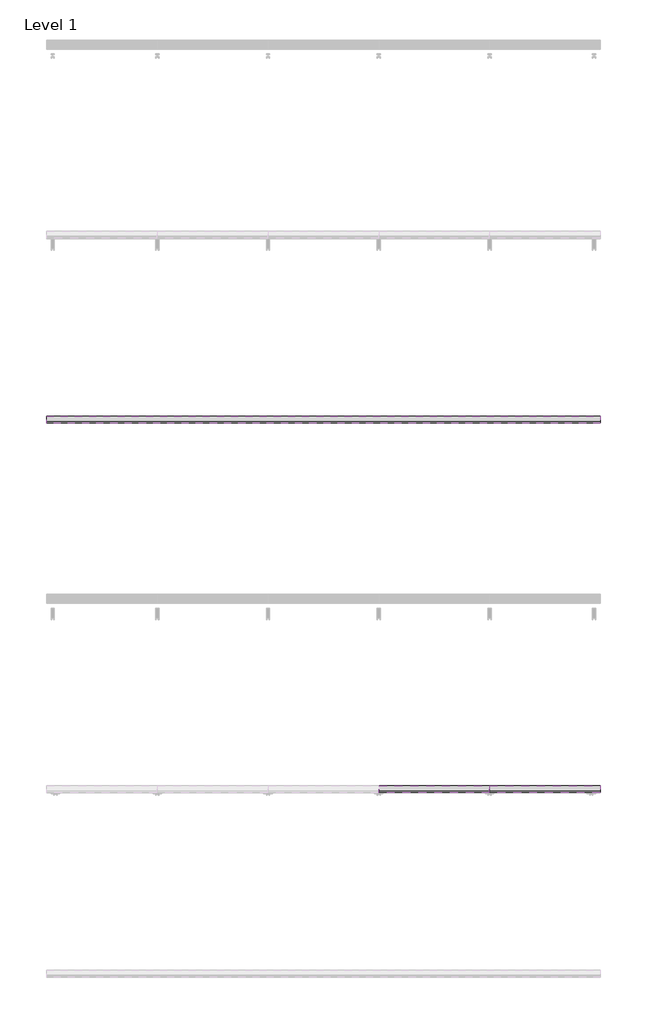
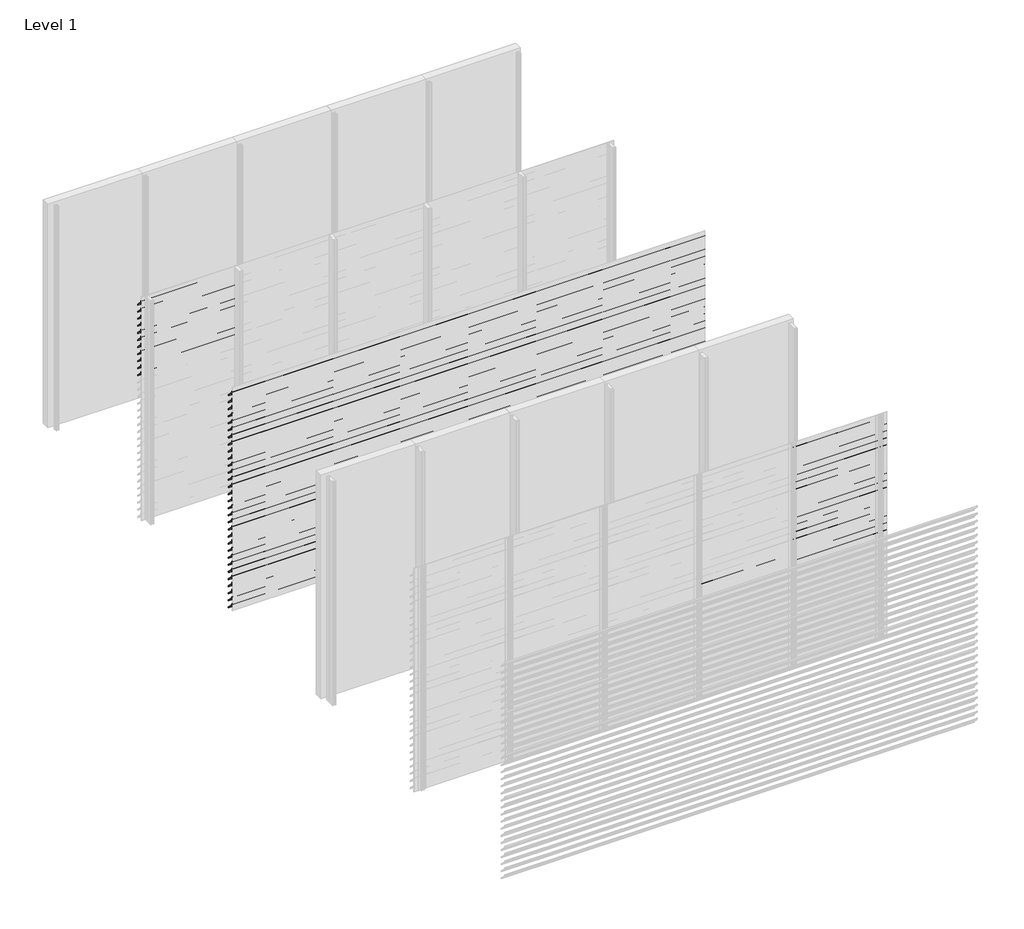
# One storey, part 5 of 24: 89 proxies.
"""IFC4 building model written with IfcOpenShell, lengths in millimetres."""

from ifc_helpers import new_model, si_unit, frame, origin, place, context, project, spatial, polyline, outline, extrude, element, save

model = new_model("IFC4")

# Units and contexts
model_context = context("Model", 3, world=origin())
ifc_project = project(units=[si_unit("LENGTHUNIT", "METRE", prefix="MILLI")], contexts=[model_context])

# Site, building, storey
site = spatial("IfcSite", under=ifc_project)
building = spatial("IfcBuilding", under=site)
storey = spatial("IfcBuildingStorey", under=building, Name="Level 1", Elevation=0.0)

# Proxies
placement = place(None, origin())
element("IfcBuildingElementProxy", 1, Name="Wall Sweeps", at=placement, inside=storey, context=model_context, shape_type="SweptSolid", body=[
    extrude(outline(polyline([(-47920.8, 2842.9), (-47922.3, 2842.9), (-47922.3, 2855.1762333), (-47998.0, 2930.4561238), (-47998.0, 2945.0), (-47996.5, 2945.0), (-47996.5, 2931.0798905), (-47920.8, 2855.8), (-47920.8, 2842.9)])), frame((0.0, 0.0, 0.0), z_axis=(1.0, 0.0, 0.0), x_axis=(0.0, 1.0, 0.0)), (0.0, 0.0, 1.0), 1200.0),
])
element("IfcBuildingElementProxy", 2, Name="Wall Sweeps", at=placement, inside=storey, context=model_context, shape_type="SweptSolid", body=[
    extrude(outline(polyline([(-47920.8, 2747.9), (-47922.3, 2747.9), (-47922.3, 2760.1762333), (-47998.0, 2835.4561238), (-47998.0, 2850.0), (-47996.5, 2850.0), (-47996.5, 2836.0798905), (-47920.8, 2760.8), (-47920.8, 2747.9)])), frame((0.0, 0.0, 0.0), z_axis=(1.0, 0.0, 0.0), x_axis=(0.0, 1.0, 0.0)), (0.0, 0.0, 1.0), 1200.0),
])
element("IfcBuildingElementProxy", 3, Name="Wall Sweeps", at=placement, inside=storey, context=model_context, shape_type="SweptSolid", body=[
    extrude(outline(polyline([(-47920.8, 2652.9), (-47922.3, 2652.9), (-47922.3, 2665.1762333), (-47998.0, 2740.4561238), (-47998.0, 2755.0), (-47996.5, 2755.0), (-47996.5, 2741.0798905), (-47920.8, 2665.8), (-47920.8, 2652.9)])), frame((0.0, 0.0, 0.0), z_axis=(1.0, 0.0, 0.0), x_axis=(0.0, 1.0, 0.0)), (0.0, 0.0, 1.0), 1200.0),
])
element("IfcBuildingElementProxy", 4, Name="Wall Sweeps", at=placement, inside=storey, context=model_context, shape_type="SweptSolid", body=[
    extrude(outline(polyline([(-47920.8, 2557.9), (-47922.3, 2557.9), (-47922.3, 2570.1762333), (-47998.0, 2645.4561238), (-47998.0, 2660.0), (-47996.5, 2660.0), (-47996.5, 2646.0798905), (-47920.8, 2570.8), (-47920.8, 2557.9)])), frame((0.0, 0.0, 0.0), z_axis=(1.0, 0.0, 0.0), x_axis=(0.0, 1.0, 0.0)), (0.0, 0.0, 1.0), 1200.0),
])
element("IfcBuildingElementProxy", 5, Name="Wall Sweeps", at=placement, inside=storey, context=model_context, shape_type="SweptSolid", body=[
    extrude(outline(polyline([(-47920.8, 2462.9), (-47922.3, 2462.9), (-47922.3, 2475.1762333), (-47998.0, 2550.4561238), (-47998.0, 2565.0), (-47996.5, 2565.0), (-47996.5, 2551.0798905), (-47920.8, 2475.8), (-47920.8, 2462.9)])), frame((0.0, 0.0, 0.0), z_axis=(1.0, 0.0, 0.0), x_axis=(0.0, 1.0, 0.0)), (0.0, 0.0, 1.0), 1200.0),
])
element("IfcBuildingElementProxy", 6, Name="Wall Sweeps", at=placement, inside=storey, context=model_context, shape_type="SweptSolid", body=[
    extrude(outline(polyline([(-47920.8, 2367.9), (-47922.3, 2367.9), (-47922.3, 2380.1762333), (-47998.0, 2455.4561238), (-47998.0, 2470.0), (-47996.5, 2470.0), (-47996.5, 2456.0798905), (-47920.8, 2380.8), (-47920.8, 2367.9)])), frame((0.0, 0.0, 0.0), z_axis=(1.0, 0.0, 0.0), x_axis=(0.0, 1.0, 0.0)), (0.0, 0.0, 1.0), 1200.0),
])
element("IfcBuildingElementProxy", 7, Name="Wall Sweeps", at=placement, inside=storey, context=model_context, shape_type="SweptSolid", body=[
    extrude(outline(polyline([(-47920.8, 2272.9), (-47922.3, 2272.9), (-47922.3, 2285.1762333), (-47998.0, 2360.4561238), (-47998.0, 2375.0), (-47996.5, 2375.0), (-47996.5, 2361.0798905), (-47920.8, 2285.8), (-47920.8, 2272.9)])), frame((0.0, 0.0, 0.0), z_axis=(1.0, 0.0, 0.0), x_axis=(0.0, 1.0, 0.0)), (0.0, 0.0, 1.0), 1200.0),
])
element("IfcBuildingElementProxy", 8, Name="Wall Sweeps", at=placement, inside=storey, context=model_context, shape_type="SweptSolid", body=[
    extrude(outline(polyline([(-47920.8, 2177.9), (-47922.3, 2177.9), (-47922.3, 2190.1762333), (-47998.0, 2265.4561238), (-47998.0, 2280.0), (-47996.5, 2280.0), (-47996.5, 2266.0798905), (-47920.8, 2190.8), (-47920.8, 2177.9)])), frame((0.0, 0.0, 0.0), z_axis=(1.0, 0.0, 0.0), x_axis=(0.0, 1.0, 0.0)), (0.0, 0.0, 1.0), 1200.0),
])
element("IfcBuildingElementProxy", 9, Name="Wall Sweeps", at=placement, inside=storey, context=model_context, shape_type="SweptSolid", body=[
    extrude(outline(polyline([(-47920.8, 2082.9), (-47922.3, 2082.9), (-47922.3, 2095.1762333), (-47998.0, 2170.4561238), (-47998.0, 2185.0), (-47996.5, 2185.0), (-47996.5, 2171.0798905), (-47920.8, 2095.8), (-47920.8, 2082.9)])), frame((0.0, 0.0, 0.0), z_axis=(1.0, 0.0, 0.0), x_axis=(0.0, 1.0, 0.0)), (0.0, 0.0, 1.0), 1200.0),
])
element("IfcBuildingElementProxy", 10, Name="Wall Sweeps", at=placement, inside=storey, context=model_context, shape_type="SweptSolid", body=[
    extrude(outline(polyline([(-47920.8, 1987.9), (-47922.3, 1987.9), (-47922.3, 2000.1762333), (-47998.0, 2075.4561238), (-47998.0, 2090.0), (-47996.5, 2090.0), (-47996.5, 2076.0798905), (-47920.8, 2000.8), (-47920.8, 1987.9)])), frame((0.0, 0.0, 0.0), z_axis=(1.0, 0.0, 0.0), x_axis=(0.0, 1.0, 0.0)), (0.0, 0.0, 1.0), 1200.0),
])
element("IfcBuildingElementProxy", 11, Name="Wall Sweeps", at=placement, inside=storey, context=model_context, shape_type="SweptSolid", body=[
    extrude(outline(polyline([(-47920.8, 1892.9), (-47922.3, 1892.9), (-47922.3, 1905.1762333), (-47998.0, 1980.4561238), (-47998.0, 1995.0), (-47996.5, 1995.0), (-47996.5, 1981.0798905), (-47920.8, 1905.8), (-47920.8, 1892.9)])), frame((0.0, 0.0, 0.0), z_axis=(1.0, 0.0, 0.0), x_axis=(0.0, 1.0, 0.0)), (0.0, 0.0, 1.0), 1200.0),
])
element("IfcBuildingElementProxy", 12, Name="Wall Sweeps", at=placement, inside=storey, context=model_context, shape_type="SweptSolid", body=[
    extrude(outline(polyline([(-49920.8, 2842.9), (-49922.3, 2842.9), (-49922.3, 2855.1762333), (-49998.0, 2930.4561238), (-49998.0, 2945.0), (-49996.5, 2945.0), (-49996.5, 2931.0798905), (-49920.8, 2855.8), (-49920.8, 2842.9)])), frame((0.0, 0.0, 0.0), z_axis=(1.0, 0.0, 0.0), x_axis=(0.0, 1.0, 0.0)), (0.0, 0.0, 1.0), 6000.0),
])
element("IfcBuildingElementProxy", 13, Name="Wall Sweeps", at=placement, inside=storey, context=model_context, shape_type="SweptSolid", body=[
    extrude(outline(polyline([(-49920.8, 2747.9), (-49922.3, 2747.9), (-49922.3, 2760.1762333), (-49998.0, 2835.4561238), (-49998.0, 2850.0), (-49996.5, 2850.0), (-49996.5, 2836.0798905), (-49920.8, 2760.8), (-49920.8, 2747.9)])), frame((0.0, 0.0, 0.0), z_axis=(1.0, 0.0, 0.0), x_axis=(0.0, 1.0, 0.0)), (0.0, 0.0, 1.0), 6000.0),
])
element("IfcBuildingElementProxy", 14, Name="Wall Sweeps", at=placement, inside=storey, context=model_context, shape_type="SweptSolid", body=[
    extrude(outline(polyline([(-49920.8, 2652.9), (-49922.3, 2652.9), (-49922.3, 2665.1762333), (-49998.0, 2740.4561238), (-49998.0, 2755.0), (-49996.5, 2755.0), (-49996.5, 2741.0798905), (-49920.8, 2665.8), (-49920.8, 2652.9)])), frame((0.0, 0.0, 0.0), z_axis=(1.0, 0.0, 0.0), x_axis=(0.0, 1.0, 0.0)), (0.0, 0.0, 1.0), 6000.0),
])
element("IfcBuildingElementProxy", 15, Name="Wall Sweeps", at=placement, inside=storey, context=model_context, shape_type="SweptSolid", body=[
    extrude(outline(polyline([(-49920.8, 2557.9), (-49922.3, 2557.9), (-49922.3, 2570.1762333), (-49998.0, 2645.4561238), (-49998.0, 2660.0), (-49996.5, 2660.0), (-49996.5, 2646.0798905), (-49920.8, 2570.8), (-49920.8, 2557.9)])), frame((0.0, 0.0, 0.0), z_axis=(1.0, 0.0, 0.0), x_axis=(0.0, 1.0, 0.0)), (0.0, 0.0, 1.0), 6000.0),
])
element("IfcBuildingElementProxy", 16, Name="Wall Sweeps", at=placement, inside=storey, context=model_context, shape_type="SweptSolid", body=[
    extrude(outline(polyline([(-49920.8, 2462.9), (-49922.3, 2462.9), (-49922.3, 2475.1762333), (-49998.0, 2550.4561238), (-49998.0, 2565.0), (-49996.5, 2565.0), (-49996.5, 2551.0798905), (-49920.8, 2475.8), (-49920.8, 2462.9)])), frame((0.0, 0.0, 0.0), z_axis=(1.0, 0.0, 0.0), x_axis=(0.0, 1.0, 0.0)), (0.0, 0.0, 1.0), 6000.0),
])
element("IfcBuildingElementProxy", 17, Name="Wall Sweeps", at=placement, inside=storey, context=model_context, shape_type="SweptSolid", body=[
    extrude(outline(polyline([(-49920.8, 2367.9), (-49922.3, 2367.9), (-49922.3, 2380.1762333), (-49998.0, 2455.4561238), (-49998.0, 2470.0), (-49996.5, 2470.0), (-49996.5, 2456.0798905), (-49920.8, 2380.8), (-49920.8, 2367.9)])), frame((0.0, 0.0, 0.0), z_axis=(1.0, 0.0, 0.0), x_axis=(0.0, 1.0, 0.0)), (0.0, 0.0, 1.0), 6000.0),
])
element("IfcBuildingElementProxy", 18, Name="Wall Sweeps", at=placement, inside=storey, context=model_context, shape_type="SweptSolid", body=[
    extrude(outline(polyline([(-49920.8, 2272.9), (-49922.3, 2272.9), (-49922.3, 2285.1762333), (-49998.0, 2360.4561238), (-49998.0, 2375.0), (-49996.5, 2375.0), (-49996.5, 2361.0798905), (-49920.8, 2285.8), (-49920.8, 2272.9)])), frame((0.0, 0.0, 0.0), z_axis=(1.0, 0.0, 0.0), x_axis=(0.0, 1.0, 0.0)), (0.0, 0.0, 1.0), 6000.0),
])
element("IfcBuildingElementProxy", 19, Name="Wall Sweeps", at=placement, inside=storey, context=model_context, shape_type="SweptSolid", body=[
    extrude(outline(polyline([(-49920.8, 2177.9), (-49922.3, 2177.9), (-49922.3, 2190.1762333), (-49998.0, 2265.4561238), (-49998.0, 2280.0), (-49996.5, 2280.0), (-49996.5, 2266.0798905), (-49920.8, 2190.8), (-49920.8, 2177.9)])), frame((0.0, 0.0, 0.0), z_axis=(1.0, 0.0, 0.0), x_axis=(0.0, 1.0, 0.0)), (0.0, 0.0, 1.0), 6000.0),
])
element("IfcBuildingElementProxy", 20, Name="Wall Sweeps", at=placement, inside=storey, context=model_context, shape_type="SweptSolid", body=[
    extrude(outline(polyline([(-49920.8, 2082.9), (-49922.3, 2082.9), (-49922.3, 2095.1762333), (-49998.0, 2170.4561238), (-49998.0, 2185.0), (-49996.5, 2185.0), (-49996.5, 2171.0798905), (-49920.8, 2095.8), (-49920.8, 2082.9)])), frame((0.0, 0.0, 0.0), z_axis=(1.0, 0.0, 0.0), x_axis=(0.0, 1.0, 0.0)), (0.0, 0.0, 1.0), 6000.0),
])
element("IfcBuildingElementProxy", 21, Name="Wall Sweeps", at=placement, inside=storey, context=model_context, shape_type="SweptSolid", body=[
    extrude(outline(polyline([(-49920.8, 1987.9), (-49922.3, 1987.9), (-49922.3, 2000.1762333), (-49998.0, 2075.4561238), (-49998.0, 2090.0), (-49996.5, 2090.0), (-49996.5, 2076.0798905), (-49920.8, 2000.8), (-49920.8, 1987.9)])), frame((0.0, 0.0, 0.0), z_axis=(1.0, 0.0, 0.0), x_axis=(0.0, 1.0, 0.0)), (0.0, 0.0, 1.0), 6000.0),
])
element("IfcBuildingElementProxy", 22, Name="Wall Sweeps", at=placement, inside=storey, context=model_context, shape_type="SweptSolid", body=[
    extrude(outline(polyline([(-49920.8, 1892.9), (-49922.3, 1892.9), (-49922.3, 1905.1762333), (-49998.0, 1980.4561238), (-49998.0, 1995.0), (-49996.5, 1995.0), (-49996.5, 1981.0798905), (-49920.8, 1905.8), (-49920.8, 1892.9)])), frame((0.0, 0.0, 0.0), z_axis=(1.0, 0.0, 0.0), x_axis=(0.0, 1.0, 0.0)), (0.0, 0.0, 1.0), 6000.0),
])
element("IfcBuildingElementProxy", 23, Name="Wall Sweeps", at=placement, inside=storey, context=model_context, shape_type="SweptSolid", body=[
    extrude(outline(polyline([(-49920.8, 1797.9), (-49922.3, 1797.9), (-49922.3, 1810.1762333), (-49998.0, 1885.4561238), (-49998.0, 1900.0), (-49996.5, 1900.0), (-49996.5, 1886.0798905), (-49920.8, 1810.8), (-49920.8, 1797.9)])), frame((0.0, 0.0, 0.0), z_axis=(1.0, 0.0, 0.0), x_axis=(0.0, 1.0, 0.0)), (0.0, 0.0, 1.0), 6000.0),
])
element("IfcBuildingElementProxy", 24, Name="Wall Sweeps", at=placement, inside=storey, context=model_context, shape_type="SweptSolid", body=[
    extrude(outline(polyline([(-49920.8, 1702.9), (-49922.3, 1702.9), (-49922.3, 1715.1762333), (-49998.0, 1790.4561238), (-49998.0, 1805.0), (-49996.5, 1805.0), (-49996.5, 1791.0798905), (-49920.8, 1715.8), (-49920.8, 1702.9)])), frame((0.0, 0.0, 0.0), z_axis=(1.0, 0.0, 0.0), x_axis=(0.0, 1.0, 0.0)), (0.0, 0.0, 1.0), 6000.0),
])
element("IfcBuildingElementProxy", 25, Name="Wall Sweeps", at=placement, inside=storey, context=model_context, shape_type="SweptSolid", body=[
    extrude(outline(polyline([(-49920.8, 1607.9), (-49922.3, 1607.9), (-49922.3, 1620.1762333), (-49998.0, 1695.4561238), (-49998.0, 1710.0), (-49996.5, 1710.0), (-49996.5, 1696.0798905), (-49920.8, 1620.8), (-49920.8, 1607.9)])), frame((0.0, 0.0, 0.0), z_axis=(1.0, 0.0, 0.0), x_axis=(0.0, 1.0, 0.0)), (0.0, 0.0, 1.0), 6000.0),
])
element("IfcBuildingElementProxy", 26, Name="Wall Sweeps", at=placement, inside=storey, context=model_context, shape_type="SweptSolid", body=[
    extrude(outline(polyline([(-49920.8, 1512.9), (-49922.3, 1512.9), (-49922.3, 1525.1762333), (-49998.0, 1600.4561238), (-49998.0, 1615.0), (-49996.5, 1615.0), (-49996.5, 1601.0798905), (-49920.8, 1525.8), (-49920.8, 1512.9)])), frame((0.0, 0.0, 0.0), z_axis=(1.0, 0.0, 0.0), x_axis=(0.0, 1.0, 0.0)), (0.0, 0.0, 1.0), 6000.0),
])
element("IfcBuildingElementProxy", 27, Name="Wall Sweeps", at=placement, inside=storey, context=model_context, shape_type="SweptSolid", body=[
    extrude(outline(polyline([(-49920.8, 1417.9), (-49922.3, 1417.9), (-49922.3, 1430.1762333), (-49998.0, 1505.4561238), (-49998.0, 1520.0), (-49996.5, 1520.0), (-49996.5, 1506.0798905), (-49920.8, 1430.8), (-49920.8, 1417.9)])), frame((0.0, 0.0, 0.0), z_axis=(1.0, 0.0, 0.0), x_axis=(0.0, 1.0, 0.0)), (0.0, 0.0, 1.0), 6000.0),
])
element("IfcBuildingElementProxy", 28, Name="Wall Sweeps", at=placement, inside=storey, context=model_context, shape_type="SweptSolid", body=[
    extrude(outline(polyline([(-49920.8, 1322.9), (-49922.3, 1322.9), (-49922.3, 1335.1762333), (-49998.0, 1410.4561238), (-49998.0, 1425.0), (-49996.5, 1425.0), (-49996.5, 1411.0798905), (-49920.8, 1335.8), (-49920.8, 1322.9)])), frame((0.0, 0.0, 0.0), z_axis=(1.0, 0.0, 0.0), x_axis=(0.0, 1.0, 0.0)), (0.0, 0.0, 1.0), 6000.0),
])
element("IfcBuildingElementProxy", 29, Name="Wall Sweeps", at=placement, inside=storey, context=model_context, shape_type="SweptSolid", body=[
    extrude(outline(polyline([(-49920.8, 1227.9), (-49922.3, 1227.9), (-49922.3, 1240.1762333), (-49998.0, 1315.4561238), (-49998.0, 1330.0), (-49996.5, 1330.0), (-49996.5, 1316.0798905), (-49920.8, 1240.8), (-49920.8, 1227.9)])), frame((0.0, 0.0, 0.0), z_axis=(1.0, 0.0, 0.0), x_axis=(0.0, 1.0, 0.0)), (0.0, 0.0, 1.0), 6000.0),
])
element("IfcBuildingElementProxy", 30, Name="Wall Sweeps", at=placement, inside=storey, context=model_context, shape_type="SweptSolid", body=[
    extrude(outline(polyline([(-49920.8, 1132.9), (-49922.3, 1132.9), (-49922.3, 1145.1762333), (-49998.0, 1220.4561238), (-49998.0, 1235.0), (-49996.5, 1235.0), (-49996.5, 1221.0798905), (-49920.8, 1145.8), (-49920.8, 1132.9)])), frame((0.0, 0.0, 0.0), z_axis=(1.0, 0.0, 0.0), x_axis=(0.0, 1.0, 0.0)), (0.0, 0.0, 1.0), 6000.0),
])
element("IfcBuildingElementProxy", 31, Name="Wall Sweeps", at=placement, inside=storey, context=model_context, shape_type="SweptSolid", body=[
    extrude(outline(polyline([(-49920.8, 1037.9), (-49922.3, 1037.9), (-49922.3, 1050.1762333), (-49998.0, 1125.4561238), (-49998.0, 1140.0), (-49996.5, 1140.0), (-49996.5, 1126.0798905), (-49920.8, 1050.8), (-49920.8, 1037.9)])), frame((0.0, 0.0, 0.0), z_axis=(1.0, 0.0, 0.0), x_axis=(0.0, 1.0, 0.0)), (0.0, 0.0, 1.0), 6000.0),
])
element("IfcBuildingElementProxy", 32, Name="Wall Sweeps", at=placement, inside=storey, context=model_context, shape_type="SweptSolid", body=[
    extrude(outline(polyline([(-49920.8, 942.9), (-49922.3, 942.9), (-49922.3, 955.1762333), (-49998.0, 1030.4561238), (-49998.0, 1045.0), (-49996.5, 1045.0), (-49996.5, 1031.0798905), (-49920.8, 955.8), (-49920.8, 942.9)])), frame((0.0, 0.0, 0.0), z_axis=(1.0, 0.0, 0.0), x_axis=(0.0, 1.0, 0.0)), (0.0, 0.0, 1.0), 6000.0),
])
element("IfcBuildingElementProxy", 33, Name="Wall Sweeps", at=placement, inside=storey, context=model_context, shape_type="SweptSolid", body=[
    extrude(outline(polyline([(-49920.8, 847.9), (-49922.3, 847.9), (-49922.3, 860.1762333), (-49998.0, 935.4561238), (-49998.0, 950.0), (-49996.5, 950.0), (-49996.5, 936.0798905), (-49920.8, 860.8), (-49920.8, 847.9)])), frame((0.0, 0.0, 0.0), z_axis=(1.0, 0.0, 0.0), x_axis=(0.0, 1.0, 0.0)), (0.0, 0.0, 1.0), 6000.0),
])
element("IfcBuildingElementProxy", 34, Name="Wall Sweeps", at=placement, inside=storey, context=model_context, shape_type="SweptSolid", body=[
    extrude(outline(polyline([(-49920.8, 752.9), (-49922.3, 752.9), (-49922.3, 765.1762333), (-49998.0, 840.4561238), (-49998.0, 855.0), (-49996.5, 855.0), (-49996.5, 841.0798905), (-49920.8, 765.8), (-49920.8, 752.9)])), frame((0.0, 0.0, 0.0), z_axis=(1.0, 0.0, 0.0), x_axis=(0.0, 1.0, 0.0)), (0.0, 0.0, 1.0), 6000.0),
])
element("IfcBuildingElementProxy", 35, Name="Wall Sweeps", at=placement, inside=storey, context=model_context, shape_type="SweptSolid", body=[
    extrude(outline(polyline([(-49920.8, 657.9), (-49922.3, 657.9), (-49922.3, 670.1762333), (-49998.0, 745.4561238), (-49998.0, 760.0), (-49996.5, 760.0), (-49996.5, 746.0798905), (-49920.8, 670.8), (-49920.8, 657.9)])), frame((0.0, 0.0, 0.0), z_axis=(1.0, 0.0, 0.0), x_axis=(0.0, 1.0, 0.0)), (0.0, 0.0, 1.0), 6000.0),
])
element("IfcBuildingElementProxy", 36, Name="Wall Sweeps", at=placement, inside=storey, context=model_context, shape_type="SweptSolid", body=[
    extrude(outline(polyline([(-49920.8, 562.9), (-49922.3, 562.9), (-49922.3, 575.1762333), (-49998.0, 650.4561238), (-49998.0, 665.0), (-49996.5, 665.0), (-49996.5, 651.0798905), (-49920.8, 575.8), (-49920.8, 562.9)])), frame((0.0, 0.0, 0.0), z_axis=(1.0, 0.0, 0.0), x_axis=(0.0, 1.0, 0.0)), (0.0, 0.0, 1.0), 6000.0),
])
element("IfcBuildingElementProxy", 37, Name="Wall Sweeps", at=placement, inside=storey, context=model_context, shape_type="SweptSolid", body=[
    extrude(outline(polyline([(-49920.8, 467.9), (-49922.3, 467.9), (-49922.3, 480.1762333), (-49998.0, 555.4561238), (-49998.0, 570.0), (-49996.5, 570.0), (-49996.5, 556.0798905), (-49920.8, 480.8), (-49920.8, 467.9)])), frame((0.0, 0.0, 0.0), z_axis=(1.0, 0.0, 0.0), x_axis=(0.0, 1.0, 0.0)), (0.0, 0.0, 1.0), 6000.0),
])
element("IfcBuildingElementProxy", 38, Name="Wall Sweeps", at=placement, inside=storey, context=model_context, shape_type="SweptSolid", body=[
    extrude(outline(polyline([(-49920.8, 372.9), (-49922.3, 372.9), (-49922.3, 385.1762333), (-49998.0, 460.4561238), (-49998.0, 475.0), (-49996.5, 475.0), (-49996.5, 461.0798905), (-49920.8, 385.8), (-49920.8, 372.9)])), frame((0.0, 0.0, 0.0), z_axis=(1.0, 0.0, 0.0), x_axis=(0.0, 1.0, 0.0)), (0.0, 0.0, 1.0), 6000.0),
])
element("IfcBuildingElementProxy", 39, Name="Wall Sweeps", at=placement, inside=storey, context=model_context, shape_type="SweptSolid", body=[
    extrude(outline(polyline([(-49920.8, 277.9), (-49922.3, 277.9), (-49922.3, 290.1762333), (-49998.0, 365.4561238), (-49998.0, 380.0), (-49996.5, 380.0), (-49996.5, 366.0798905), (-49920.8, 290.8), (-49920.8, 277.9)])), frame((0.0, 0.0, 0.0), z_axis=(1.0, 0.0, 0.0), x_axis=(0.0, 1.0, 0.0)), (0.0, 0.0, 1.0), 6000.0),
])
element("IfcBuildingElementProxy", 40, Name="Wall Sweeps", at=placement, inside=storey, context=model_context, shape_type="SweptSolid", body=[
    extrude(outline(polyline([(-49920.8, 182.9), (-49922.3, 182.9), (-49922.3, 195.1762333), (-49998.0, 270.4561238), (-49998.0, 285.0), (-49996.5, 285.0), (-49996.5, 271.0798905), (-49920.8, 195.8), (-49920.8, 182.9)])), frame((0.0, 0.0, 0.0), z_axis=(1.0, 0.0, 0.0), x_axis=(0.0, 1.0, 0.0)), (0.0, 0.0, 1.0), 6000.0),
])
element("IfcBuildingElementProxy", 41, Name="Wall Sweeps", at=placement, inside=storey, context=model_context, shape_type="SweptSolid", body=[
    extrude(outline(polyline([(-49920.8, 87.9), (-49922.3, 87.9), (-49922.3, 100.1762333), (-49998.0, 175.4561238), (-49998.0, 190.0), (-49996.5, 190.0), (-49996.5, 176.0798905), (-49920.8, 100.8), (-49920.8, 87.9)])), frame((0.0, 0.0, 0.0), z_axis=(1.0, 0.0, 0.0), x_axis=(0.0, 1.0, 0.0)), (0.0, 0.0, 1.0), 6000.0),
])
element("IfcBuildingElementProxy", 42, Name="Wall Sweeps", at=placement, inside=storey, context=model_context, shape_type="SweptSolid", body=[
    extrude(outline(polyline([(-49920.8, -7.1), (-49922.3, -7.1), (-49922.3, 5.1762333), (-49998.0, 80.4561238), (-49998.0, 95.0), (-49996.5, 95.0), (-49996.5, 81.0798905), (-49920.8, 5.8), (-49920.8, -7.1)])), frame((0.0, 0.0, 0.0), z_axis=(1.0, 0.0, 0.0), x_axis=(0.0, 1.0, 0.0)), (0.0, 0.0, 1.0), 6000.0),
])
element("IfcBuildingElementProxy", 43, Name="Wall Sweeps", at=placement, inside=storey, context=model_context, shape_type="SweptSolid", body=[
    extrude(outline(polyline([(-53920.8, 1417.9), (-53922.3, 1417.9), (-53922.3, 1430.1762333), (-53998.0, 1505.4561238), (-53998.0, 1520.0), (-53996.5, 1520.0), (-53996.5, 1506.0798905), (-53920.8, 1430.8), (-53920.8, 1417.9)])), frame((3600.0, 0.0, 0.0), z_axis=(1.0, 0.0, 0.0), x_axis=(0.0, 1.0, 0.0)), (0.0, 0.0, 1.0), 1200.0),
])
element("IfcBuildingElementProxy", 44, Name="Wall Sweeps", at=placement, inside=storey, context=model_context, shape_type="SweptSolid", body=[
    extrude(outline(polyline([(-53920.8, 1322.9), (-53922.3, 1322.9), (-53922.3, 1335.1762333), (-53998.0, 1410.4561238), (-53998.0, 1425.0), (-53996.5, 1425.0), (-53996.5, 1411.0798905), (-53920.8, 1335.8), (-53920.8, 1322.9)])), frame((3600.0, 0.0, 0.0), z_axis=(1.0, 0.0, 0.0), x_axis=(0.0, 1.0, 0.0)), (0.0, 0.0, 1.0), 1200.0),
])
element("IfcBuildingElementProxy", 45, Name="Wall Sweeps", at=placement, inside=storey, context=model_context, shape_type="SweptSolid", body=[
    extrude(outline(polyline([(-53920.8, 1227.9), (-53922.3, 1227.9), (-53922.3, 1240.1762333), (-53998.0, 1315.4561238), (-53998.0, 1330.0), (-53996.5, 1330.0), (-53996.5, 1316.0798905), (-53920.8, 1240.8), (-53920.8, 1227.9)])), frame((3600.0, 0.0, 0.0), z_axis=(1.0, 0.0, 0.0), x_axis=(0.0, 1.0, 0.0)), (0.0, 0.0, 1.0), 1200.0),
])
element("IfcBuildingElementProxy", 46, Name="Wall Sweeps", at=placement, inside=storey, context=model_context, shape_type="SweptSolid", body=[
    extrude(outline(polyline([(-53920.8, 1132.9), (-53922.3, 1132.9), (-53922.3, 1145.1762333), (-53998.0, 1220.4561238), (-53998.0, 1235.0), (-53996.5, 1235.0), (-53996.5, 1221.0798905), (-53920.8, 1145.8), (-53920.8, 1132.9)])), frame((3600.0, 0.0, 0.0), z_axis=(1.0, 0.0, 0.0), x_axis=(0.0, 1.0, 0.0)), (0.0, 0.0, 1.0), 1200.0),
])
element("IfcBuildingElementProxy", 47, Name="Wall Sweeps", at=placement, inside=storey, context=model_context, shape_type="SweptSolid", body=[
    extrude(outline(polyline([(-53920.8, 1037.9), (-53922.3, 1037.9), (-53922.3, 1050.1762333), (-53998.0, 1125.4561238), (-53998.0, 1140.0), (-53996.5, 1140.0), (-53996.5, 1126.0798905), (-53920.8, 1050.8), (-53920.8, 1037.9)])), frame((3600.0, 0.0, 0.0), z_axis=(1.0, 0.0, 0.0), x_axis=(0.0, 1.0, 0.0)), (0.0, 0.0, 1.0), 1200.0),
])
element("IfcBuildingElementProxy", 48, Name="Wall Sweeps", at=placement, inside=storey, context=model_context, shape_type="SweptSolid", body=[
    extrude(outline(polyline([(-53920.8, 942.9), (-53922.3, 942.9), (-53922.3, 955.1762333), (-53998.0, 1030.4561238), (-53998.0, 1045.0), (-53996.5, 1045.0), (-53996.5, 1031.0798905), (-53920.8, 955.8), (-53920.8, 942.9)])), frame((3600.0, 0.0, 0.0), z_axis=(1.0, 0.0, 0.0), x_axis=(0.0, 1.0, 0.0)), (0.0, 0.0, 1.0), 1200.0),
])
element("IfcBuildingElementProxy", 49, Name="Wall Sweeps", at=placement, inside=storey, context=model_context, shape_type="SweptSolid", body=[
    extrude(outline(polyline([(-53920.8, 847.9), (-53922.3, 847.9), (-53922.3, 860.1762333), (-53998.0, 935.4561238), (-53998.0, 950.0), (-53996.5, 950.0), (-53996.5, 936.0798905), (-53920.8, 860.8), (-53920.8, 847.9)])), frame((3600.0, 0.0, 0.0), z_axis=(1.0, 0.0, 0.0), x_axis=(0.0, 1.0, 0.0)), (0.0, 0.0, 1.0), 1200.0),
])
element("IfcBuildingElementProxy", 50, Name="Wall Sweeps", at=placement, inside=storey, context=model_context, shape_type="SweptSolid", body=[
    extrude(outline(polyline([(-53920.8, 752.9), (-53922.3, 752.9), (-53922.3, 765.1762333), (-53998.0, 840.4561238), (-53998.0, 855.0), (-53996.5, 855.0), (-53996.5, 841.0798905), (-53920.8, 765.8), (-53920.8, 752.9)])), frame((3600.0, 0.0, 0.0), z_axis=(1.0, 0.0, 0.0), x_axis=(0.0, 1.0, 0.0)), (0.0, 0.0, 1.0), 1200.0),
])
element("IfcBuildingElementProxy", 51, Name="Wall Sweeps", at=placement, inside=storey, context=model_context, shape_type="SweptSolid", body=[
    extrude(outline(polyline([(-53920.8, 657.9), (-53922.3, 657.9), (-53922.3, 670.1762333), (-53998.0, 745.4561238), (-53998.0, 760.0), (-53996.5, 760.0), (-53996.5, 746.0798905), (-53920.8, 670.8), (-53920.8, 657.9)])), frame((3600.0, 0.0, 0.0), z_axis=(1.0, 0.0, 0.0), x_axis=(0.0, 1.0, 0.0)), (0.0, 0.0, 1.0), 1200.0),
])
element("IfcBuildingElementProxy", 52, Name="Wall Sweeps", at=placement, inside=storey, context=model_context, shape_type="SweptSolid", body=[
    extrude(outline(polyline([(-53920.8, 562.9), (-53922.3, 562.9), (-53922.3, 575.1762333), (-53998.0, 650.4561238), (-53998.0, 665.0), (-53996.5, 665.0), (-53996.5, 651.0798905), (-53920.8, 575.8), (-53920.8, 562.9)])), frame((3600.0, 0.0, 0.0), z_axis=(1.0, 0.0, 0.0), x_axis=(0.0, 1.0, 0.0)), (0.0, 0.0, 1.0), 1200.0),
])
element("IfcBuildingElementProxy", 53, Name="Wall Sweeps", at=placement, inside=storey, context=model_context, shape_type="SweptSolid", body=[
    extrude(outline(polyline([(-53920.8, 467.9), (-53922.3, 467.9), (-53922.3, 480.1762333), (-53998.0, 555.4561238), (-53998.0, 570.0), (-53996.5, 570.0), (-53996.5, 556.0798905), (-53920.8, 480.8), (-53920.8, 467.9)])), frame((3600.0, 0.0, 0.0), z_axis=(1.0, 0.0, 0.0), x_axis=(0.0, 1.0, 0.0)), (0.0, 0.0, 1.0), 1200.0),
])
element("IfcBuildingElementProxy", 54, Name="Wall Sweeps", at=placement, inside=storey, context=model_context, shape_type="SweptSolid", body=[
    extrude(outline(polyline([(-53920.8, 372.9), (-53922.3, 372.9), (-53922.3, 385.1762333), (-53998.0, 460.4561238), (-53998.0, 475.0), (-53996.5, 475.0), (-53996.5, 461.0798905), (-53920.8, 385.8), (-53920.8, 372.9)])), frame((3600.0, 0.0, 0.0), z_axis=(1.0, 0.0, 0.0), x_axis=(0.0, 1.0, 0.0)), (0.0, 0.0, 1.0), 1200.0),
])
element("IfcBuildingElementProxy", 55, Name="Wall Sweeps", at=placement, inside=storey, context=model_context, shape_type="SweptSolid", body=[
    extrude(outline(polyline([(-53920.8, 277.9), (-53922.3, 277.9), (-53922.3, 290.1762333), (-53998.0, 365.4561238), (-53998.0, 380.0), (-53996.5, 380.0), (-53996.5, 366.0798905), (-53920.8, 290.8), (-53920.8, 277.9)])), frame((3600.0, 0.0, 0.0), z_axis=(1.0, 0.0, 0.0), x_axis=(0.0, 1.0, 0.0)), (0.0, 0.0, 1.0), 1200.0),
])
element("IfcBuildingElementProxy", 56, Name="Wall Sweeps", at=placement, inside=storey, context=model_context, shape_type="SweptSolid", body=[
    extrude(outline(polyline([(-53920.8, 182.9), (-53922.3, 182.9), (-53922.3, 195.1762333), (-53998.0, 270.4561238), (-53998.0, 285.0), (-53996.5, 285.0), (-53996.5, 271.0798905), (-53920.8, 195.8), (-53920.8, 182.9)])), frame((3600.0, 0.0, 0.0), z_axis=(1.0, 0.0, 0.0), x_axis=(0.0, 1.0, 0.0)), (0.0, 0.0, 1.0), 1200.0),
])
element("IfcBuildingElementProxy", 57, Name="Wall Sweeps", at=placement, inside=storey, context=model_context, shape_type="SweptSolid", body=[
    extrude(outline(polyline([(-53920.8, 87.9), (-53922.3, 87.9), (-53922.3, 100.1762333), (-53998.0, 175.4561238), (-53998.0, 190.0), (-53996.5, 190.0), (-53996.5, 176.0798905), (-53920.8, 100.8), (-53920.8, 87.9)])), frame((3600.0, 0.0, 0.0), z_axis=(1.0, 0.0, 0.0), x_axis=(0.0, 1.0, 0.0)), (0.0, 0.0, 1.0), 1200.0),
])
element("IfcBuildingElementProxy", 58, Name="Wall Sweeps", at=placement, inside=storey, context=model_context, shape_type="SweptSolid", body=[
    extrude(outline(polyline([(-53920.8, -7.1), (-53922.3, -7.1), (-53922.3, 5.1762333), (-53998.0, 80.4561238), (-53998.0, 95.0), (-53996.5, 95.0), (-53996.5, 81.0798905), (-53920.8, 5.8), (-53920.8, -7.1)])), frame((3600.0, 0.0, 0.0), z_axis=(1.0, 0.0, 0.0), x_axis=(0.0, 1.0, 0.0)), (0.0, 0.0, 1.0), 1200.0),
])
element("IfcBuildingElementProxy", 59, Name="Wall Sweeps", at=placement, inside=storey, context=model_context, shape_type="SweptSolid", body=[
    extrude(outline(polyline([(-53920.8, 2842.9), (-53922.3, 2842.9), (-53922.3, 2855.1762333), (-53998.0, 2930.4561238), (-53998.0, 2945.0), (-53996.5, 2945.0), (-53996.5, 2931.0798905), (-53920.8, 2855.8), (-53920.8, 2842.9)])), frame((4800.0, 0.0, 0.0), z_axis=(1.0, 0.0, 0.0), x_axis=(0.0, 1.0, 0.0)), (0.0, 0.0, 1.0), 1200.0),
])
element("IfcBuildingElementProxy", 60, Name="Wall Sweeps", at=placement, inside=storey, context=model_context, shape_type="SweptSolid", body=[
    extrude(outline(polyline([(-53920.8, 2747.9), (-53922.3, 2747.9), (-53922.3, 2760.1762333), (-53998.0, 2835.4561238), (-53998.0, 2850.0), (-53996.5, 2850.0), (-53996.5, 2836.0798905), (-53920.8, 2760.8), (-53920.8, 2747.9)])), frame((4800.0, 0.0, 0.0), z_axis=(1.0, 0.0, 0.0), x_axis=(0.0, 1.0, 0.0)), (0.0, 0.0, 1.0), 1200.0),
])
element("IfcBuildingElementProxy", 61, Name="Wall Sweeps", at=placement, inside=storey, context=model_context, shape_type="SweptSolid", body=[
    extrude(outline(polyline([(-53920.8, 2652.9), (-53922.3, 2652.9), (-53922.3, 2665.1762333), (-53998.0, 2740.4561238), (-53998.0, 2755.0), (-53996.5, 2755.0), (-53996.5, 2741.0798905), (-53920.8, 2665.8), (-53920.8, 2652.9)])), frame((4800.0, 0.0, 0.0), z_axis=(1.0, 0.0, 0.0), x_axis=(0.0, 1.0, 0.0)), (0.0, 0.0, 1.0), 1200.0),
])
element("IfcBuildingElementProxy", 62, Name="Wall Sweeps", at=placement, inside=storey, context=model_context, shape_type="SweptSolid", body=[
    extrude(outline(polyline([(-53920.8, 2557.9), (-53922.3, 2557.9), (-53922.3, 2570.1762333), (-53998.0, 2645.4561238), (-53998.0, 2660.0), (-53996.5, 2660.0), (-53996.5, 2646.0798905), (-53920.8, 2570.8), (-53920.8, 2557.9)])), frame((4800.0, 0.0, 0.0), z_axis=(1.0, 0.0, 0.0), x_axis=(0.0, 1.0, 0.0)), (0.0, 0.0, 1.0), 1200.0),
])
element("IfcBuildingElementProxy", 63, Name="Wall Sweeps", at=placement, inside=storey, context=model_context, shape_type="SweptSolid", body=[
    extrude(outline(polyline([(-53920.8, 2462.9), (-53922.3, 2462.9), (-53922.3, 2475.1762333), (-53998.0, 2550.4561238), (-53998.0, 2565.0), (-53996.5, 2565.0), (-53996.5, 2551.0798905), (-53920.8, 2475.8), (-53920.8, 2462.9)])), frame((4800.0, 0.0, 0.0), z_axis=(1.0, 0.0, 0.0), x_axis=(0.0, 1.0, 0.0)), (0.0, 0.0, 1.0), 1200.0),
])
element("IfcBuildingElementProxy", 64, Name="Wall Sweeps", at=placement, inside=storey, context=model_context, shape_type="SweptSolid", body=[
    extrude(outline(polyline([(-53920.8, 2367.9), (-53922.3, 2367.9), (-53922.3, 2380.1762333), (-53998.0, 2455.4561238), (-53998.0, 2470.0), (-53996.5, 2470.0), (-53996.5, 2456.0798905), (-53920.8, 2380.8), (-53920.8, 2367.9)])), frame((4800.0, 0.0, 0.0), z_axis=(1.0, 0.0, 0.0), x_axis=(0.0, 1.0, 0.0)), (0.0, 0.0, 1.0), 1200.0),
])
element("IfcBuildingElementProxy", 65, Name="Wall Sweeps", at=placement, inside=storey, context=model_context, shape_type="SweptSolid", body=[
    extrude(outline(polyline([(-53920.8, 2272.9), (-53922.3, 2272.9), (-53922.3, 2285.1762333), (-53998.0, 2360.4561238), (-53998.0, 2375.0), (-53996.5, 2375.0), (-53996.5, 2361.0798905), (-53920.8, 2285.8), (-53920.8, 2272.9)])), frame((4800.0, 0.0, 0.0), z_axis=(1.0, 0.0, 0.0), x_axis=(0.0, 1.0, 0.0)), (0.0, 0.0, 1.0), 1200.0),
])
element("IfcBuildingElementProxy", 66, Name="Wall Sweeps", at=placement, inside=storey, context=model_context, shape_type="SweptSolid", body=[
    extrude(outline(polyline([(-53920.8, 2177.9), (-53922.3, 2177.9), (-53922.3, 2190.1762333), (-53998.0, 2265.4561238), (-53998.0, 2280.0), (-53996.5, 2280.0), (-53996.5, 2266.0798905), (-53920.8, 2190.8), (-53920.8, 2177.9)])), frame((4800.0, 0.0, 0.0), z_axis=(1.0, 0.0, 0.0), x_axis=(0.0, 1.0, 0.0)), (0.0, 0.0, 1.0), 1200.0),
])
element("IfcBuildingElementProxy", 67, Name="Wall Sweeps", at=placement, inside=storey, context=model_context, shape_type="SweptSolid", body=[
    extrude(outline(polyline([(-53920.8, 2082.9), (-53922.3, 2082.9), (-53922.3, 2095.1762333), (-53998.0, 2170.4561238), (-53998.0, 2185.0), (-53996.5, 2185.0), (-53996.5, 2171.0798905), (-53920.8, 2095.8), (-53920.8, 2082.9)])), frame((4800.0, 0.0, 0.0), z_axis=(1.0, 0.0, 0.0), x_axis=(0.0, 1.0, 0.0)), (0.0, 0.0, 1.0), 1200.0),
])
element("IfcBuildingElementProxy", 68, Name="Wall Sweeps", at=placement, inside=storey, context=model_context, shape_type="SweptSolid", body=[
    extrude(outline(polyline([(-53920.8, 1987.9), (-53922.3, 1987.9), (-53922.3, 2000.1762333), (-53998.0, 2075.4561238), (-53998.0, 2090.0), (-53996.5, 2090.0), (-53996.5, 2076.0798905), (-53920.8, 2000.8), (-53920.8, 1987.9)])), frame((4800.0, 0.0, 0.0), z_axis=(1.0, 0.0, 0.0), x_axis=(0.0, 1.0, 0.0)), (0.0, 0.0, 1.0), 1200.0),
])
element("IfcBuildingElementProxy", 69, Name="Wall Sweeps", at=placement, inside=storey, context=model_context, shape_type="SweptSolid", body=[
    extrude(outline(polyline([(-53920.8, 1892.9), (-53922.3, 1892.9), (-53922.3, 1905.1762333), (-53998.0, 1980.4561238), (-53998.0, 1995.0), (-53996.5, 1995.0), (-53996.5, 1981.0798905), (-53920.8, 1905.8), (-53920.8, 1892.9)])), frame((4800.0, 0.0, 0.0), z_axis=(1.0, 0.0, 0.0), x_axis=(0.0, 1.0, 0.0)), (0.0, 0.0, 1.0), 1200.0),
])
element("IfcBuildingElementProxy", 70, Name="Wall Sweeps", at=placement, inside=storey, context=model_context, shape_type="SweptSolid", body=[
    extrude(outline(polyline([(-53920.8, 1797.9), (-53922.3, 1797.9), (-53922.3, 1810.1762333), (-53998.0, 1885.4561238), (-53998.0, 1900.0), (-53996.5, 1900.0), (-53996.5, 1886.0798905), (-53920.8, 1810.8), (-53920.8, 1797.9)])), frame((4800.0, 0.0, 0.0), z_axis=(1.0, 0.0, 0.0), x_axis=(0.0, 1.0, 0.0)), (0.0, 0.0, 1.0), 1200.0),
])
element("IfcBuildingElementProxy", 71, Name="Wall Sweeps", at=placement, inside=storey, context=model_context, shape_type="SweptSolid", body=[
    extrude(outline(polyline([(-53920.8, 1702.9), (-53922.3, 1702.9), (-53922.3, 1715.1762333), (-53998.0, 1790.4561238), (-53998.0, 1805.0), (-53996.5, 1805.0), (-53996.5, 1791.0798905), (-53920.8, 1715.8), (-53920.8, 1702.9)])), frame((4800.0, 0.0, 0.0), z_axis=(1.0, 0.0, 0.0), x_axis=(0.0, 1.0, 0.0)), (0.0, 0.0, 1.0), 1200.0),
])
element("IfcBuildingElementProxy", 72, Name="Wall Sweeps", at=placement, inside=storey, context=model_context, shape_type="SweptSolid", body=[
    extrude(outline(polyline([(-53920.8, 1607.9), (-53922.3, 1607.9), (-53922.3, 1620.1762333), (-53998.0, 1695.4561238), (-53998.0, 1710.0), (-53996.5, 1710.0), (-53996.5, 1696.0798905), (-53920.8, 1620.8), (-53920.8, 1607.9)])), frame((4800.0, 0.0, 0.0), z_axis=(1.0, 0.0, 0.0), x_axis=(0.0, 1.0, 0.0)), (0.0, 0.0, 1.0), 1200.0),
])
element("IfcBuildingElementProxy", 73, Name="Wall Sweeps", at=placement, inside=storey, context=model_context, shape_type="SweptSolid", body=[
    extrude(outline(polyline([(-53920.8, 1512.9), (-53922.3, 1512.9), (-53922.3, 1525.1762333), (-53998.0, 1600.4561238), (-53998.0, 1615.0), (-53996.5, 1615.0), (-53996.5, 1601.0798905), (-53920.8, 1525.8), (-53920.8, 1512.9)])), frame((4800.0, 0.0, 0.0), z_axis=(1.0, 0.0, 0.0), x_axis=(0.0, 1.0, 0.0)), (0.0, 0.0, 1.0), 1200.0),
])
element("IfcBuildingElementProxy", 74, Name="Wall Sweeps", at=placement, inside=storey, context=model_context, shape_type="SweptSolid", body=[
    extrude(outline(polyline([(-53920.8, 1417.9), (-53922.3, 1417.9), (-53922.3, 1430.1762333), (-53998.0, 1505.4561238), (-53998.0, 1520.0), (-53996.5, 1520.0), (-53996.5, 1506.0798905), (-53920.8, 1430.8), (-53920.8, 1417.9)])), frame((4800.0, 0.0, 0.0), z_axis=(1.0, 0.0, 0.0), x_axis=(0.0, 1.0, 0.0)), (0.0, 0.0, 1.0), 1200.0),
])
element("IfcBuildingElementProxy", 75, Name="Wall Sweeps", at=placement, inside=storey, context=model_context, shape_type="SweptSolid", body=[
    extrude(outline(polyline([(-53920.8, 1322.9), (-53922.3, 1322.9), (-53922.3, 1335.1762333), (-53998.0, 1410.4561238), (-53998.0, 1425.0), (-53996.5, 1425.0), (-53996.5, 1411.0798905), (-53920.8, 1335.8), (-53920.8, 1322.9)])), frame((4800.0, 0.0, 0.0), z_axis=(1.0, 0.0, 0.0), x_axis=(0.0, 1.0, 0.0)), (0.0, 0.0, 1.0), 1200.0),
])
element("IfcBuildingElementProxy", 76, Name="Wall Sweeps", at=placement, inside=storey, context=model_context, shape_type="SweptSolid", body=[
    extrude(outline(polyline([(-53920.8, 1227.9), (-53922.3, 1227.9), (-53922.3, 1240.1762333), (-53998.0, 1315.4561238), (-53998.0, 1330.0), (-53996.5, 1330.0), (-53996.5, 1316.0798905), (-53920.8, 1240.8), (-53920.8, 1227.9)])), frame((4800.0, 0.0, 0.0), z_axis=(1.0, 0.0, 0.0), x_axis=(0.0, 1.0, 0.0)), (0.0, 0.0, 1.0), 1200.0),
])
element("IfcBuildingElementProxy", 77, Name="Wall Sweeps", at=placement, inside=storey, context=model_context, shape_type="SweptSolid", body=[
    extrude(outline(polyline([(-53920.8, 1132.9), (-53922.3, 1132.9), (-53922.3, 1145.1762333), (-53998.0, 1220.4561238), (-53998.0, 1235.0), (-53996.5, 1235.0), (-53996.5, 1221.0798905), (-53920.8, 1145.8), (-53920.8, 1132.9)])), frame((4800.0, 0.0, 0.0), z_axis=(1.0, 0.0, 0.0), x_axis=(0.0, 1.0, 0.0)), (0.0, 0.0, 1.0), 1200.0),
])
element("IfcBuildingElementProxy", 78, Name="Wall Sweeps", at=placement, inside=storey, context=model_context, shape_type="SweptSolid", body=[
    extrude(outline(polyline([(-53920.8, 1037.9), (-53922.3, 1037.9), (-53922.3, 1050.1762333), (-53998.0, 1125.4561238), (-53998.0, 1140.0), (-53996.5, 1140.0), (-53996.5, 1126.0798905), (-53920.8, 1050.8), (-53920.8, 1037.9)])), frame((4800.0, 0.0, 0.0), z_axis=(1.0, 0.0, 0.0), x_axis=(0.0, 1.0, 0.0)), (0.0, 0.0, 1.0), 1200.0),
])
element("IfcBuildingElementProxy", 79, Name="Wall Sweeps", at=placement, inside=storey, context=model_context, shape_type="SweptSolid", body=[
    extrude(outline(polyline([(-53920.8, 942.9), (-53922.3, 942.9), (-53922.3, 955.1762333), (-53998.0, 1030.4561238), (-53998.0, 1045.0), (-53996.5, 1045.0), (-53996.5, 1031.0798905), (-53920.8, 955.8), (-53920.8, 942.9)])), frame((4800.0, 0.0, 0.0), z_axis=(1.0, 0.0, 0.0), x_axis=(0.0, 1.0, 0.0)), (0.0, 0.0, 1.0), 1200.0),
])
element("IfcBuildingElementProxy", 80, Name="Wall Sweeps", at=placement, inside=storey, context=model_context, shape_type="SweptSolid", body=[
    extrude(outline(polyline([(-53920.8, 847.9), (-53922.3, 847.9), (-53922.3, 860.1762333), (-53998.0, 935.4561238), (-53998.0, 950.0), (-53996.5, 950.0), (-53996.5, 936.0798905), (-53920.8, 860.8), (-53920.8, 847.9)])), frame((4800.0, 0.0, 0.0), z_axis=(1.0, 0.0, 0.0), x_axis=(0.0, 1.0, 0.0)), (0.0, 0.0, 1.0), 1200.0),
])
element("IfcBuildingElementProxy", 81, Name="Wall Sweeps", at=placement, inside=storey, context=model_context, shape_type="SweptSolid", body=[
    extrude(outline(polyline([(-53920.8, 752.9), (-53922.3, 752.9), (-53922.3, 765.1762333), (-53998.0, 840.4561238), (-53998.0, 855.0), (-53996.5, 855.0), (-53996.5, 841.0798905), (-53920.8, 765.8), (-53920.8, 752.9)])), frame((4800.0, 0.0, 0.0), z_axis=(1.0, 0.0, 0.0), x_axis=(0.0, 1.0, 0.0)), (0.0, 0.0, 1.0), 1200.0),
])
element("IfcBuildingElementProxy", 82, Name="Wall Sweeps", at=placement, inside=storey, context=model_context, shape_type="SweptSolid", body=[
    extrude(outline(polyline([(-53920.8, 657.9), (-53922.3, 657.9), (-53922.3, 670.1762333), (-53998.0, 745.4561238), (-53998.0, 760.0), (-53996.5, 760.0), (-53996.5, 746.0798905), (-53920.8, 670.8), (-53920.8, 657.9)])), frame((4800.0, 0.0, 0.0), z_axis=(1.0, 0.0, 0.0), x_axis=(0.0, 1.0, 0.0)), (0.0, 0.0, 1.0), 1200.0),
])
element("IfcBuildingElementProxy", 83, Name="Wall Sweeps", at=placement, inside=storey, context=model_context, shape_type="SweptSolid", body=[
    extrude(outline(polyline([(-53920.8, 562.9), (-53922.3, 562.9), (-53922.3, 575.1762333), (-53998.0, 650.4561238), (-53998.0, 665.0), (-53996.5, 665.0), (-53996.5, 651.0798905), (-53920.8, 575.8), (-53920.8, 562.9)])), frame((4800.0, 0.0, 0.0), z_axis=(1.0, 0.0, 0.0), x_axis=(0.0, 1.0, 0.0)), (0.0, 0.0, 1.0), 1200.0),
])
element("IfcBuildingElementProxy", 84, Name="Wall Sweeps", at=placement, inside=storey, context=model_context, shape_type="SweptSolid", body=[
    extrude(outline(polyline([(-53920.8, 467.9), (-53922.3, 467.9), (-53922.3, 480.1762333), (-53998.0, 555.4561238), (-53998.0, 570.0), (-53996.5, 570.0), (-53996.5, 556.0798905), (-53920.8, 480.8), (-53920.8, 467.9)])), frame((4800.0, 0.0, 0.0), z_axis=(1.0, 0.0, 0.0), x_axis=(0.0, 1.0, 0.0)), (0.0, 0.0, 1.0), 1200.0),
])
element("IfcBuildingElementProxy", 85, Name="Wall Sweeps", at=placement, inside=storey, context=model_context, shape_type="SweptSolid", body=[
    extrude(outline(polyline([(-53920.8, 372.9), (-53922.3, 372.9), (-53922.3, 385.1762333), (-53998.0, 460.4561238), (-53998.0, 475.0), (-53996.5, 475.0), (-53996.5, 461.0798905), (-53920.8, 385.8), (-53920.8, 372.9)])), frame((4800.0, 0.0, 0.0), z_axis=(1.0, 0.0, 0.0), x_axis=(0.0, 1.0, 0.0)), (0.0, 0.0, 1.0), 1200.0),
])
element("IfcBuildingElementProxy", 86, Name="Wall Sweeps", at=placement, inside=storey, context=model_context, shape_type="SweptSolid", body=[
    extrude(outline(polyline([(-53920.8, 277.9), (-53922.3, 277.9), (-53922.3, 290.1762333), (-53998.0, 365.4561238), (-53998.0, 380.0), (-53996.5, 380.0), (-53996.5, 366.0798905), (-53920.8, 290.8), (-53920.8, 277.9)])), frame((4800.0, 0.0, 0.0), z_axis=(1.0, 0.0, 0.0), x_axis=(0.0, 1.0, 0.0)), (0.0, 0.0, 1.0), 1200.0),
])
element("IfcBuildingElementProxy", 87, Name="Wall Sweeps", at=placement, inside=storey, context=model_context, shape_type="SweptSolid", body=[
    extrude(outline(polyline([(-53920.8, 182.9), (-53922.3, 182.9), (-53922.3, 195.1762333), (-53998.0, 270.4561238), (-53998.0, 285.0), (-53996.5, 285.0), (-53996.5, 271.0798905), (-53920.8, 195.8), (-53920.8, 182.9)])), frame((4800.0, 0.0, 0.0), z_axis=(1.0, 0.0, 0.0), x_axis=(0.0, 1.0, 0.0)), (0.0, 0.0, 1.0), 1200.0),
])
element("IfcBuildingElementProxy", 88, Name="Wall Sweeps", at=placement, inside=storey, context=model_context, shape_type="SweptSolid", body=[
    extrude(outline(polyline([(-53920.8, 87.9), (-53922.3, 87.9), (-53922.3, 100.1762333), (-53998.0, 175.4561238), (-53998.0, 190.0), (-53996.5, 190.0), (-53996.5, 176.0798905), (-53920.8, 100.8), (-53920.8, 87.9)])), frame((4800.0, 0.0, 0.0), z_axis=(1.0, 0.0, 0.0), x_axis=(0.0, 1.0, 0.0)), (0.0, 0.0, 1.0), 1200.0),
])
element("IfcBuildingElementProxy", 89, Name="Wall Sweeps", at=placement, inside=storey, context=model_context, shape_type="SweptSolid", body=[
    extrude(outline(polyline([(-53920.8, -7.1), (-53922.3, -7.1), (-53922.3, 5.1762333), (-53998.0, 80.4561238), (-53998.0, 95.0), (-53996.5, 95.0), (-53996.5, 81.0798905), (-53920.8, 5.8), (-53920.8, -7.1)])), frame((4800.0, 0.0, 0.0), z_axis=(1.0, 0.0, 0.0), x_axis=(0.0, 1.0, 0.0)), (0.0, 0.0, 1.0), 1200.0),
])

save(model, "model.ifc")
